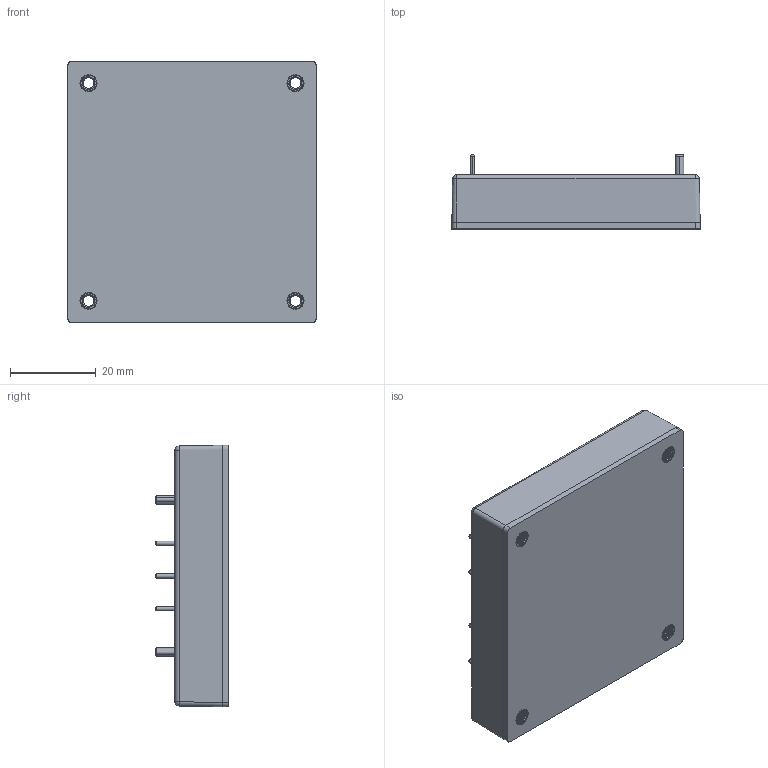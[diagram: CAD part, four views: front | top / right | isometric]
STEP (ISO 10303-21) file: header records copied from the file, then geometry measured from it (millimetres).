
FILE_DESCRIPTION (( 'STEP AP203' ), '1' );
FILE_NAME ('CHB100-110S-1121025.STEP', '2023-10-25T06:12:32', ( 'cincon' ), ( '' ), 'SwSTEP 2.0', 'SolidWorks 2020', '' );
FILE_SCHEMA (( 'CONFIG_CONTROL_DESIGN' ));
Length unit declared in the file: millimetre
Products named in the file (1): CHB100-110S-1121025
Bounding box: 57.9 x 17.2 x 61 mm (x, y, z)
Volume: 42401.3 mm3; surface area: 16531.1 mm2
Topology: 1 solids, 11 shells, 871 faces, 2388 edges, 1565 vertices
Faces by surface type: cylinder 359, plane 343, cone 154, bspline 11, sphere 4
Entity records: 37739 total; most frequent: CARTESIAN_POINT 16660, ORIENTED_EDGE 4776, DIRECTION 4095, EDGE_CURVE 2388, VERTEX_POINT 1565, AXIS2_PLACEMENT_3D 1466, LINE 1163, VECTOR 1163
